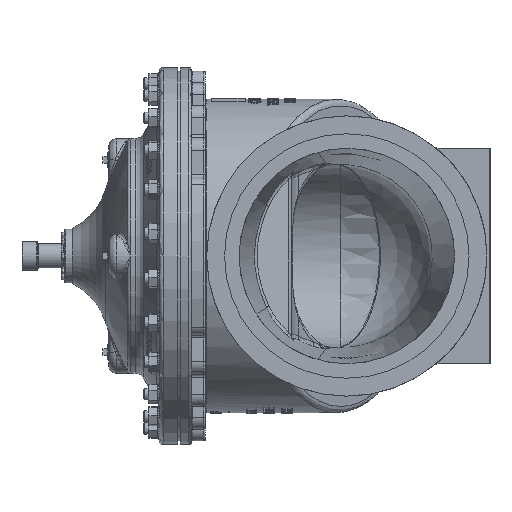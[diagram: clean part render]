
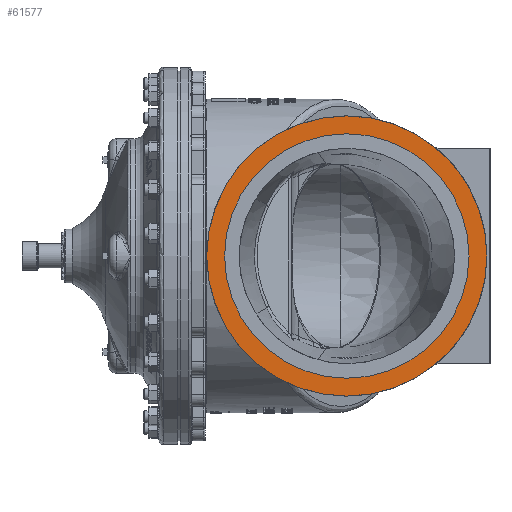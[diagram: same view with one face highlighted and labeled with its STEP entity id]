
A CAD part, left-side view. The second image highlights one B-rep face of the part: STEP entity #61577.
In plain terms, the highlighted planar face has unit normal (-1, 0, 0).
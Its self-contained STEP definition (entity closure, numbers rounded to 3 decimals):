
#6152=FACE_BOUND('',#12343,.T.);
#6638=PLANE('',#65826);
#8382=FACE_OUTER_BOUND('',#12342,.T.);
#12342=EDGE_LOOP('',(#42582));
#12343=EDGE_LOOP('',(#42583));
#20428=CIRCLE('',#65827,455.);
#20429=CIRCLE('',#65828,397.);
#24671=VERTEX_POINT('',#91910);
#24672=VERTEX_POINT('',#91912);
#31542=EDGE_CURVE('',#24671,#24671,#20428,.T.);
#31543=EDGE_CURVE('',#24672,#24672,#20429,.T.);
#42582=ORIENTED_EDGE('',*,*,#31542,.F.);
#42583=ORIENTED_EDGE('',*,*,#31543,.T.);
#61577=ADVANCED_FACE('',(#8382,#6152),#6638,.T.);
#65826=AXIS2_PLACEMENT_3D('',#91909,#74320,#74321);
#65827=AXIS2_PLACEMENT_3D('',#91911,#74322,#74323);
#65828=AXIS2_PLACEMENT_3D('',#91913,#74324,#74325);
#74320=DIRECTION('center_axis',(-1.,0.,0.));
#74321=DIRECTION('ref_axis',(0.,0.,1.));
#74322=DIRECTION('center_axis',(1.,0.,0.));
#74323=DIRECTION('ref_axis',(0.,1.,0.));
#74324=DIRECTION('center_axis',(1.,0.,0.));
#74325=DIRECTION('ref_axis',(0.,1.,0.));
#91909=CARTESIAN_POINT('Origin',(-820.,426.,0.));
#91910=CARTESIAN_POINT('',(-820.,-455.,0.));
#91911=CARTESIAN_POINT('Origin',(-820.,0.,0.));
#91912=CARTESIAN_POINT('',(-820.,-397.,0.));
#91913=CARTESIAN_POINT('Origin',(-820.,0.,0.));
